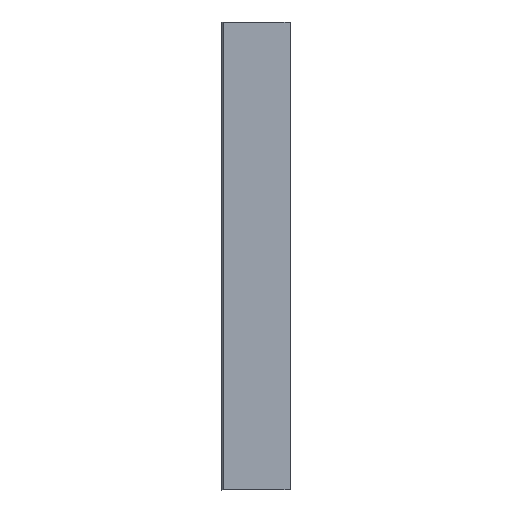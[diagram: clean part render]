
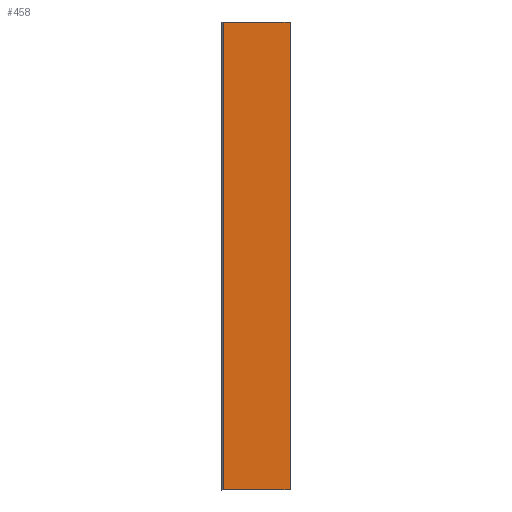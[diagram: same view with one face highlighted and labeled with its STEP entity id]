
A CAD part, top view. The second image highlights one B-rep face of the part: STEP entity #458.
In plain terms, the highlighted free-form (B-spline) face has degree [2, 1] with [13, 2] control points.
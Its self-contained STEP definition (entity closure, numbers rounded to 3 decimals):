
#458=ADVANCED_FACE('',(#478),#648,.T.);
#478=FACE_OUTER_BOUND('',#498,.T.);
#498=EDGE_LOOP('',(#528,#529,#530,#531));
#528=ORIENTED_EDGE('',*,*,#590,.F.);
#529=ORIENTED_EDGE('',*,*,#594,.T.);
#530=ORIENTED_EDGE('',*,*,#592,.T.);
#531=ORIENTED_EDGE('',*,*,#593,.F.);
#590=EDGE_CURVE('',#625,#624,#1766,.T.);
#592=EDGE_CURVE('',#627,#626,#1768,.T.);
#593=EDGE_CURVE('',#624,#626,#667,.T.);
#594=EDGE_CURVE('',#625,#627,#668,.T.);
#624=VERTEX_POINT('',#834);
#625=VERTEX_POINT('',#835);
#626=VERTEX_POINT('',#836);
#627=VERTEX_POINT('',#837);
#648=(
BOUNDED_SURFACE()
B_SPLINE_SURFACE(2,1,((#806,#807),(#808,#809),(#810,#811),(#812,#813),(#814,
#815),(#816,#817),(#818,#819),(#820,#821),(#822,#823),(#824,#825),(#826,
#827),(#828,#829),(#830,#831)),.UNSPECIFIED.,.F.,.F.,.F.)
B_SPLINE_SURFACE_WITH_KNOTS((3,2,2,2,2,2,3),(2,2),(21.081,25.58,
309.894,313.428,316.962,320.497,324.031),
(0.,2000.),.UNSPECIFIED.)
GEOMETRIC_REPRESENTATION_ITEM()
RATIONAL_B_SPLINE_SURFACE(((1.,1.),(0.732,
0.732),(1.,1.),(1.,1.),(1.,1.),(0.831,0.831),
(1.,1.),(0.831,0.831),(1.,1.),(0.831,
0.831),(1.,1.),(0.831,0.831),(1.,1.)))
REPRESENTATION_ITEM('')
SURFACE()
);
#667=B_SPLINE_CURVE_WITH_KNOTS('',1,(#750,#751),.UNSPECIFIED.,.F.,.F.,(2,
2),(0.,2000.),.UNSPECIFIED.);
#668=B_SPLINE_CURVE_WITH_KNOTS('',1,(#752,#753),.UNSPECIFIED.,.F.,.F.,(2,
2),(0.,2000.),.UNSPECIFIED.);
#709=CARTESIAN_POINT('',(292.25,0.,351.49));
#710=CARTESIAN_POINT('',(292.25,0.,349.485));
#711=CARTESIAN_POINT('',(294.102,0.,348.718));
#712=CARTESIAN_POINT('',(295.954,0.,347.951));
#713=CARTESIAN_POINT('',(297.371,0.,349.368));
#714=CARTESIAN_POINT('',(298.789,0.,350.786));
#715=CARTESIAN_POINT('',(298.022,0.,352.638));
#716=CARTESIAN_POINT('',(297.255,0.,354.49));
#717=CARTESIAN_POINT('',(295.25,0.,354.49));
#718=CARTESIAN_POINT('',(153.093,0.,354.49));
#719=CARTESIAN_POINT('',(10.936,0.,354.49));
#720=CARTESIAN_POINT('',(8.143,0.,354.49));
#721=CARTESIAN_POINT('',(7.944,0.,357.276));
#737=CARTESIAN_POINT('',(292.25,2000.,351.49));
#738=CARTESIAN_POINT('',(292.25,2000.,349.485));
#739=CARTESIAN_POINT('',(294.102,2000.,348.718));
#740=CARTESIAN_POINT('',(295.954,2000.,347.951));
#741=CARTESIAN_POINT('',(297.371,2000.,349.368));
#742=CARTESIAN_POINT('',(298.789,2000.,350.786));
#743=CARTESIAN_POINT('',(298.022,2000.,352.638));
#744=CARTESIAN_POINT('',(297.255,2000.,354.49));
#745=CARTESIAN_POINT('',(295.25,2000.,354.49));
#746=CARTESIAN_POINT('',(153.093,2000.,354.49));
#747=CARTESIAN_POINT('',(10.936,2000.,354.49));
#748=CARTESIAN_POINT('',(8.143,2000.,354.49));
#749=CARTESIAN_POINT('',(7.944,2000.,357.276));
#750=CARTESIAN_POINT('',(7.944,0.,357.276));
#751=CARTESIAN_POINT('',(7.944,2000.,357.276));
#752=CARTESIAN_POINT('',(292.25,0.,351.49));
#753=CARTESIAN_POINT('',(292.25,2000.,351.49));
#806=CARTESIAN_POINT('',(7.944,0.,357.276));
#807=CARTESIAN_POINT('',(7.944,2000.,357.276));
#808=CARTESIAN_POINT('',(8.143,0.,354.49));
#809=CARTESIAN_POINT('',(8.143,2000.,354.49));
#810=CARTESIAN_POINT('',(10.936,0.,354.49));
#811=CARTESIAN_POINT('',(10.936,2000.,354.49));
#812=CARTESIAN_POINT('',(153.093,0.,354.49));
#813=CARTESIAN_POINT('',(153.093,2000.,354.49));
#814=CARTESIAN_POINT('',(295.25,0.,354.49));
#815=CARTESIAN_POINT('',(295.25,2000.,354.49));
#816=CARTESIAN_POINT('',(297.255,0.,354.49));
#817=CARTESIAN_POINT('',(297.255,2000.,354.49));
#818=CARTESIAN_POINT('',(298.022,0.,352.638));
#819=CARTESIAN_POINT('',(298.022,2000.,352.638));
#820=CARTESIAN_POINT('',(298.789,0.,350.786));
#821=CARTESIAN_POINT('',(298.789,2000.,350.786));
#822=CARTESIAN_POINT('',(297.371,0.,349.368));
#823=CARTESIAN_POINT('',(297.371,2000.,349.368));
#824=CARTESIAN_POINT('',(295.954,0.,347.951));
#825=CARTESIAN_POINT('',(295.954,2000.,347.951));
#826=CARTESIAN_POINT('',(294.102,0.,348.718));
#827=CARTESIAN_POINT('',(294.102,2000.,348.718));
#828=CARTESIAN_POINT('',(292.25,0.,349.485));
#829=CARTESIAN_POINT('',(292.25,2000.,349.485));
#830=CARTESIAN_POINT('',(292.25,0.,351.49));
#831=CARTESIAN_POINT('',(292.25,2000.,351.49));
#834=CARTESIAN_POINT('',(7.944,0.,357.276));
#835=CARTESIAN_POINT('',(292.25,0.,351.49));
#836=CARTESIAN_POINT('',(7.944,2000.,357.276));
#837=CARTESIAN_POINT('',(292.25,2000.,351.49));
#1766=(
BOUNDED_CURVE()
B_SPLINE_CURVE(2,(#709,#710,#711,#712,#713,#714,#715,#716,#717,#718,#719,
#720,#721),.UNSPECIFIED.,.F.,.F.)
B_SPLINE_CURVE_WITH_KNOTS((3,2,2,2,2,2,3),(-324.031,-320.497,
-316.962,-313.428,-309.894,-25.58,
-21.081),.UNSPECIFIED.)
CURVE()
GEOMETRIC_REPRESENTATION_ITEM()
RATIONAL_B_SPLINE_CURVE((1.,0.831,1.,0.831,1.,0.831,
1.,0.831,1.,1.,1.,0.732,1.))
REPRESENTATION_ITEM('')
);
#1768=(
BOUNDED_CURVE()
B_SPLINE_CURVE(2,(#737,#738,#739,#740,#741,#742,#743,#744,#745,#746,#747,
#748,#749),.UNSPECIFIED.,.F.,.F.)
B_SPLINE_CURVE_WITH_KNOTS((3,2,2,2,2,2,3),(-324.031,-320.497,
-316.962,-313.428,-309.894,-25.58,
-21.081),.UNSPECIFIED.)
CURVE()
GEOMETRIC_REPRESENTATION_ITEM()
RATIONAL_B_SPLINE_CURVE((1.,0.831,1.,0.831,1.,0.831,
1.,0.831,1.,1.,1.,0.732,1.))
REPRESENTATION_ITEM('')
);
